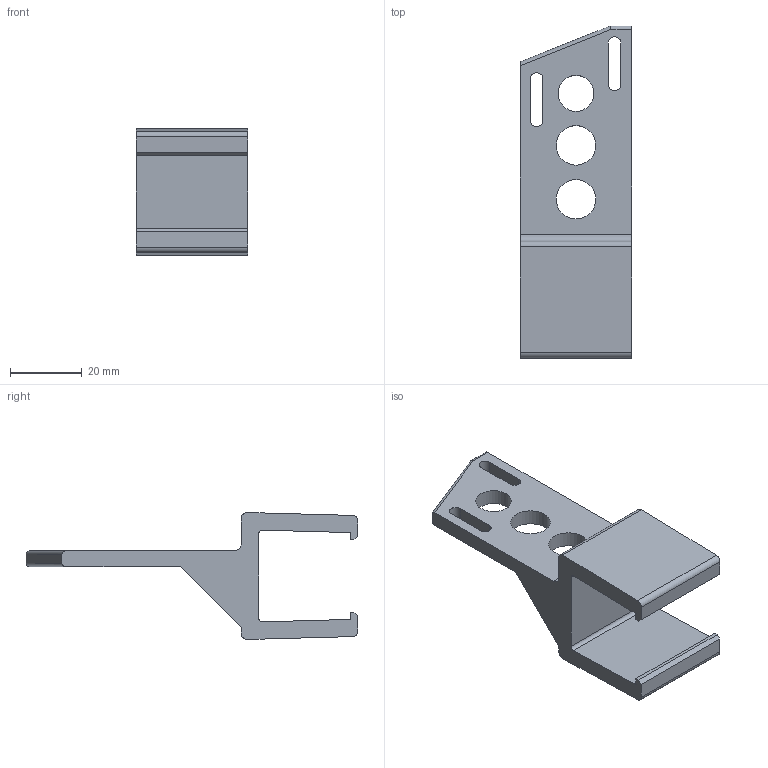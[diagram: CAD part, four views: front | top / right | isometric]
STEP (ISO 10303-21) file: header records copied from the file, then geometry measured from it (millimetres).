
FILE_DESCRIPTION(/* description */ (''),/* implementation_level */ '2;1');
FILE_NAME(/* name */ 'C:\Users\Nick\Documents\Inventor\Capstone\Clip_Right.stp',/* time_stamp */ '2017-12-08T00:02:14-08:00',/* author */ ('Nick'),/* organization */ (''),/* preprocessor_version */ 'ST-DEVELOPER v16.5',/* originating_system */ 'Autodesk Inventor 2017',/* authorisation */ '');
FILE_SCHEMA (('AUTOMOTIVE_DESIGN { 1 0 10303 214 3 1 1 }'));
Length unit declared in the file: millimetre
Products named in the file (1): Clip_Right
Bounding box: 31 x 92.48 x 35.38 mm (x, y, z)
Volume: 19975.2 mm3; surface area: 11083.4 mm2
Topology: 1 solids, 1 shells, 45 faces, 127 edges, 84 vertices
Faces by surface type: plane 27, cylinder 18
Full cylindrical faces by diameter (mm): 10 x1, 11 x2
Entity records: 1494 total; most frequent: CARTESIAN_POINT 254, DIRECTION 250, ORIENTED_EDGE 248, EDGE_CURVE 124, LINE 90, VECTOR 90, VERTEX_POINT 84, AXIS2_PLACEMENT_3D 80
